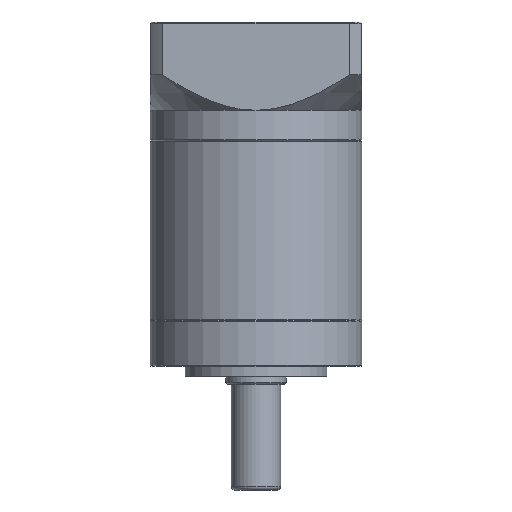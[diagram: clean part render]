
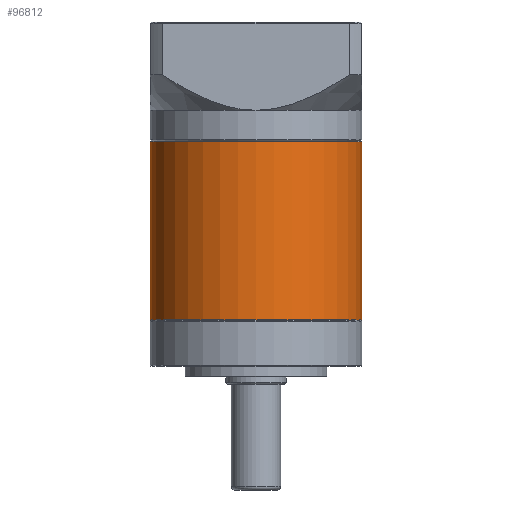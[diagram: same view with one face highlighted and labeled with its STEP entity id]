
A CAD part, front view. The second image highlights one B-rep face of the part: STEP entity #96812.
In plain terms, the highlighted cylindrical face has radius 30 mm (diameter 60 mm), a partial arc.
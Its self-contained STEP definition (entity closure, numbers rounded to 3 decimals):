
#3342 = FACE_OUTER_BOUND ( 'NONE', #35716, .T. ) ;
#7301 = DIRECTION ( 'NONE',  ( 1., 0., 0. ) ) ;
#9083 = AXIS2_PLACEMENT_3D ( 'NONE', #63501, #13886, #105101 ) ;
#13886 = DIRECTION ( 'NONE',  ( 0., 0., -1. ) ) ;
#15010 = CYLINDRICAL_SURFACE ( 'NONE', #9083, 30. ) ;
#18062 = VERTEX_POINT ( 'NONE', #32518 ) ;
#19825 = CIRCLE ( 'NONE', #50792, 30. ) ;
#20708 = EDGE_CURVE ( 'NONE', #33510, #18062, #66126, .T. ) ;
#23354 = EDGE_CURVE ( 'NONE', #103575, #32378, #19825, .T. ) ;
#24374 = CARTESIAN_POINT ( 'NONE',  ( 14.129, 11.045, 121.7 ) ) ;
#28641 = ORIENTED_EDGE ( 'NONE', *, *, #54071, .F. ) ;
#31705 = CARTESIAN_POINT ( 'NONE',  ( -45.871, 11.045, 121.95 ) ) ;
#32378 = VERTEX_POINT ( 'NONE', #35486 ) ;
#32518 = CARTESIAN_POINT ( 'NONE',  ( -45.871, 11.045, 121.7 ) ) ;
#32998 = EDGE_CURVE ( 'NONE', #18062, #103575, #36125, .T. ) ;
#33510 = VERTEX_POINT ( 'NONE', #24374 ) ;
#34168 = AXIS2_PLACEMENT_3D ( 'NONE', #41380, #99277, #49646 ) ;
#35486 = CARTESIAN_POINT ( 'NONE',  ( 14.129, 11.045, 71.4 ) ) ;
#35716 = EDGE_LOOP ( 'NONE', ( #28641, #69928, #63850, #41567 ) ) ;
#36125 = LINE ( 'NONE', #31705, #80166 ) ;
#41380 = CARTESIAN_POINT ( 'NONE',  ( -15.871, 11.045, 121.7 ) ) ;
#41567 = ORIENTED_EDGE ( 'NONE', *, *, #23354, .T. ) ;
#48134 = VECTOR ( 'NONE', #63693, 1000. ) ;
#49646 = DIRECTION ( 'NONE',  ( 1., 0., 0. ) ) ;
#50792 = AXIS2_PLACEMENT_3D ( 'NONE', #106465, #56803, #7301 ) ;
#54071 = EDGE_CURVE ( 'NONE', #33510, #32378, #67618, .T. ) ;
#56803 = DIRECTION ( 'NONE',  ( 0., 0., 1. ) ) ;
#63501 = CARTESIAN_POINT ( 'NONE',  ( -15.871, 11.045, 121.95 ) ) ;
#63693 = DIRECTION ( 'NONE',  ( 0., 0., -1. ) ) ;
#63850 = ORIENTED_EDGE ( 'NONE', *, *, #32998, .T. ) ;
#66126 = CIRCLE ( 'NONE', #34168, 30. ) ;
#67618 = LINE ( 'NONE', #88337, #48134 ) ;
#69928 = ORIENTED_EDGE ( 'NONE', *, *, #20708, .T. ) ;
#80166 = VECTOR ( 'NONE', #89634, 1000. ) ;
#83064 = CARTESIAN_POINT ( 'NONE',  ( -45.871, 11.045, 71.4 ) ) ;
#88337 = CARTESIAN_POINT ( 'NONE',  ( 14.129, 11.045, 121.95 ) ) ;
#89634 = DIRECTION ( 'NONE',  ( 0., 0., -1. ) ) ;
#96812 = ADVANCED_FACE ( 'NONE', ( #3342 ), #15010, .T. ) ;
#99277 = DIRECTION ( 'NONE',  ( 0., 0., -1. ) ) ;
#103575 = VERTEX_POINT ( 'NONE', #83064 ) ;
#105101 = DIRECTION ( 'NONE',  ( -1., 0., 0. ) ) ;
#106465 = CARTESIAN_POINT ( 'NONE',  ( -15.871, 11.045, 71.4 ) ) ;
